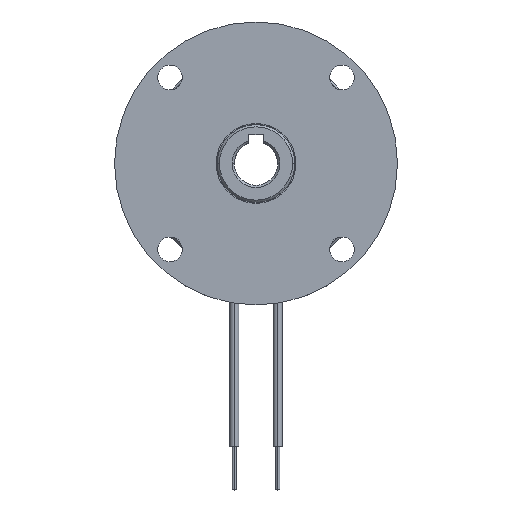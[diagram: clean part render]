
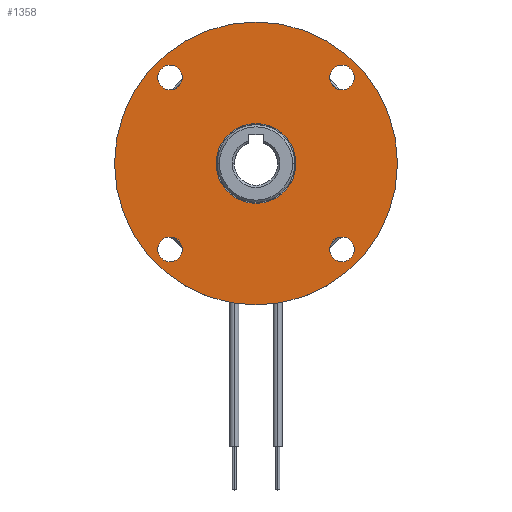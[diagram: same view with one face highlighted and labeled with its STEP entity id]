
A CAD part, top view. The second image highlights one B-rep face of the part: STEP entity #1358.
In plain terms, the highlighted planar face has unit normal (0, 0, 1).
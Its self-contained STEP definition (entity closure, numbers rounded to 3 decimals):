
#113 = CARTESIAN_POINT ( 'NONE',  ( -10.144, 11.844, 0. ) ) ;
#120 = DIRECTION ( 'NONE',  ( -1., 0., 0. ) ) ;
#186 = AXIS2_PLACEMENT_3D ( 'NONE', #2248, #3665, #2122 ) ;
#248 = AXIS2_PLACEMENT_3D ( 'NONE', #3488, #1121, #3961 ) ;
#276 = DIRECTION ( 'NONE',  ( -1., 0., 0. ) ) ;
#291 = CARTESIAN_POINT ( 'NONE',  ( 11.844, 11.844, 0. ) ) ;
#322 = DIRECTION ( 'NONE',  ( -1., 0., 0. ) ) ;
#359 = DIRECTION ( 'NONE',  ( -1., 0., 0. ) ) ;
#392 = AXIS2_PLACEMENT_3D ( 'NONE', #291, #2174, #322 ) ;
#402 = ORIENTED_EDGE ( 'NONE', *, *, #1594, .T. ) ;
#446 = EDGE_CURVE ( 'NONE', #4682, #1367, #2304, .T. ) ;
#586 = DIRECTION ( 'NONE',  ( 0., 0., -1. ) ) ;
#693 = VERTEX_POINT ( 'NONE', #4755 ) ;
#711 = CIRCLE ( 'NONE', #1493, 1.7 ) ;
#752 = AXIS2_PLACEMENT_3D ( 'NONE', #5585, #1747, #844 ) ;
#761 = ORIENTED_EDGE ( 'NONE', *, *, #768, .F. ) ;
#768 = EDGE_CURVE ( 'NONE', #5630, #693, #1045, .T. ) ;
#803 = PLANE ( 'NONE',  #5833 ) ;
#813 = DIRECTION ( 'NONE',  ( -1., 0., 0. ) ) ;
#844 = DIRECTION ( 'NONE',  ( -1., 0., 0. ) ) ;
#845 = ORIENTED_EDGE ( 'NONE', *, *, #5091, .T. ) ;
#846 = CIRCLE ( 'NONE', #2147, 1.7 ) ;
#872 = ORIENTED_EDGE ( 'NONE', *, *, #3932, .T. ) ;
#892 = DIRECTION ( 'NONE',  ( -1., 0., 0. ) ) ;
#908 = CIRCLE ( 'NONE', #4365, 1.7 ) ;
#1011 = CARTESIAN_POINT ( 'NONE',  ( 0., 19.5, 0. ) ) ;
#1025 = CARTESIAN_POINT ( 'NONE',  ( 10.144, 11.844, 0. ) ) ;
#1045 = CIRCLE ( 'NONE', #1442, 19.5 ) ;
#1121 = DIRECTION ( 'NONE',  ( 0., 0., -1. ) ) ;
#1211 = DIRECTION ( 'NONE',  ( 0., 0., -1. ) ) ;
#1358 = ADVANCED_FACE ( 'NONE', ( #3689, #4672, #2237, #2803, #2450, #3265 ), #803, .F. ) ;
#1367 = VERTEX_POINT ( 'NONE', #1800 ) ;
#1442 = AXIS2_PLACEMENT_3D ( 'NONE', #3165, #4439, #276 ) ;
#1462 = ORIENTED_EDGE ( 'NONE', *, *, #2369, .T. ) ;
#1465 = CARTESIAN_POINT ( 'NONE',  ( -5.5, 0., 0. ) ) ;
#1493 = AXIS2_PLACEMENT_3D ( 'NONE', #2494, #2029, #3906 ) ;
#1530 = CIRCLE ( 'NONE', #3620, 1.7 ) ;
#1548 = CIRCLE ( 'NONE', #2557, 5.5 ) ;
#1594 = EDGE_CURVE ( 'NONE', #1713, #2954, #908, .T. ) ;
#1713 = VERTEX_POINT ( 'NONE', #4214 ) ;
#1747 = DIRECTION ( 'NONE',  ( 0., 0., -1. ) ) ;
#1777 = CARTESIAN_POINT ( 'NONE',  ( 11.844, 11.844, 0. ) ) ;
#1793 = VERTEX_POINT ( 'NONE', #2894 ) ;
#1800 = CARTESIAN_POINT ( 'NONE',  ( 5.5, 0., 0. ) ) ;
#1848 = CIRCLE ( 'NONE', #752, 1.7 ) ;
#2029 = DIRECTION ( 'NONE',  ( 0., 0., -1. ) ) ;
#2122 = DIRECTION ( 'NONE',  ( -1., 0., 0. ) ) ;
#2147 = AXIS2_PLACEMENT_3D ( 'NONE', #1777, #1211, #359 ) ;
#2169 = DIRECTION ( 'NONE',  ( -1., 0., 0. ) ) ;
#2174 = DIRECTION ( 'NONE',  ( 0., 0., -1. ) ) ;
#2237 = FACE_BOUND ( 'NONE', #3655, .T. ) ;
#2248 = CARTESIAN_POINT ( 'NONE',  ( 11.844, -11.844, 0. ) ) ;
#2304 = CIRCLE ( 'NONE', #3780, 5.5 ) ;
#2369 = EDGE_CURVE ( 'NONE', #1793, #2490, #1530, .T. ) ;
#2415 = EDGE_LOOP ( 'NONE', ( #3533, #402 ) ) ;
#2431 = VERTEX_POINT ( 'NONE', #4984 ) ;
#2450 = FACE_OUTER_BOUND ( 'NONE', #5734, .T. ) ;
#2472 = VERTEX_POINT ( 'NONE', #5370 ) ;
#2477 = EDGE_CURVE ( 'NONE', #693, #5630, #5491, .T. ) ;
#2490 = VERTEX_POINT ( 'NONE', #4605 ) ;
#2492 = EDGE_LOOP ( 'NONE', ( #845, #872 ) ) ;
#2494 = CARTESIAN_POINT ( 'NONE',  ( -11.844, 11.844, 0. ) ) ;
#2557 = AXIS2_PLACEMENT_3D ( 'NONE', #5296, #586, #4338 ) ;
#2565 = CIRCLE ( 'NONE', #186, 1.7 ) ;
#2629 = CARTESIAN_POINT ( 'NONE',  ( -11.844, 11.844, 0. ) ) ;
#2712 = DIRECTION ( 'NONE',  ( 0., 0., -1. ) ) ;
#2803 = FACE_BOUND ( 'NONE', #5763, .T. ) ;
#2894 = CARTESIAN_POINT ( 'NONE',  ( -13.544, -11.844, 0. ) ) ;
#2943 = CARTESIAN_POINT ( 'NONE',  ( 10.144, -11.844, 0. ) ) ;
#2945 = DIRECTION ( 'NONE',  ( 0., 0., -1. ) ) ;
#2954 = VERTEX_POINT ( 'NONE', #2943 ) ;
#3165 = CARTESIAN_POINT ( 'NONE',  ( 0., 0., 0. ) ) ;
#3265 = FACE_BOUND ( 'NONE', #4276, .T. ) ;
#3374 = EDGE_CURVE ( 'NONE', #2431, #6117, #711, .T. ) ;
#3451 = CIRCLE ( 'NONE', #392, 1.7 ) ;
#3452 = CARTESIAN_POINT ( 'NONE',  ( -11.844, -11.844, 0. ) ) ;
#3472 = EDGE_CURVE ( 'NONE', #1367, #4682, #1548, .T. ) ;
#3488 = CARTESIAN_POINT ( 'NONE',  ( 0., 0., 0. ) ) ;
#3533 = ORIENTED_EDGE ( 'NONE', *, *, #4165, .T. ) ;
#3620 = AXIS2_PLACEMENT_3D ( 'NONE', #3452, #3856, #120 ) ;
#3655 = EDGE_LOOP ( 'NONE', ( #1462, #5658 ) ) ;
#3665 = DIRECTION ( 'NONE',  ( 0., 0., -1. ) ) ;
#3689 = FACE_BOUND ( 'NONE', #2492, .T. ) ;
#3780 = AXIS2_PLACEMENT_3D ( 'NONE', #4074, #5450, #2169 ) ;
#3856 = DIRECTION ( 'NONE',  ( 0., 0., -1. ) ) ;
#3906 = DIRECTION ( 'NONE',  ( -1., 0., 0. ) ) ;
#3912 = DIRECTION ( 'NONE',  ( -1., 0., 0. ) ) ;
#3932 = EDGE_CURVE ( 'NONE', #2472, #5324, #3451, .T. ) ;
#3961 = DIRECTION ( 'NONE',  ( -1., 0., 0. ) ) ;
#3967 = EDGE_CURVE ( 'NONE', #6117, #2431, #5325, .T. ) ;
#3982 = ORIENTED_EDGE ( 'NONE', *, *, #3472, .T. ) ;
#4074 = CARTESIAN_POINT ( 'NONE',  ( 0., 0., 0. ) ) ;
#4149 = ORIENTED_EDGE ( 'NONE', *, *, #2477, .F. ) ;
#4165 = EDGE_CURVE ( 'NONE', #2954, #1713, #2565, .T. ) ;
#4214 = CARTESIAN_POINT ( 'NONE',  ( 13.544, -11.844, 0. ) ) ;
#4276 = EDGE_LOOP ( 'NONE', ( #5694, #3982 ) ) ;
#4338 = DIRECTION ( 'NONE',  ( -1., 0., 0. ) ) ;
#4365 = AXIS2_PLACEMENT_3D ( 'NONE', #5418, #2945, #3912 ) ;
#4439 = DIRECTION ( 'NONE',  ( 0., 0., -1. ) ) ;
#4557 = DIRECTION ( 'NONE',  ( 0., 0., -1. ) ) ;
#4605 = CARTESIAN_POINT ( 'NONE',  ( -10.144, -11.844, 0. ) ) ;
#4672 = FACE_BOUND ( 'NONE', #2415, .T. ) ;
#4682 = VERTEX_POINT ( 'NONE', #1465 ) ;
#4755 = CARTESIAN_POINT ( 'NONE',  ( -19.5, 0., 0. ) ) ;
#4984 = CARTESIAN_POINT ( 'NONE',  ( -13.544, 11.844, 0. ) ) ;
#5024 = EDGE_CURVE ( 'NONE', #2490, #1793, #1848, .T. ) ;
#5082 = ORIENTED_EDGE ( 'NONE', *, *, #3374, .T. ) ;
#5091 = EDGE_CURVE ( 'NONE', #5324, #2472, #846, .T. ) ;
#5296 = CARTESIAN_POINT ( 'NONE',  ( 0., 0., 0. ) ) ;
#5324 = VERTEX_POINT ( 'NONE', #1025 ) ;
#5325 = CIRCLE ( 'NONE', #5434, 1.7 ) ;
#5370 = CARTESIAN_POINT ( 'NONE',  ( 13.544, 11.844, 0. ) ) ;
#5405 = ORIENTED_EDGE ( 'NONE', *, *, #3967, .T. ) ;
#5418 = CARTESIAN_POINT ( 'NONE',  ( 11.844, -11.844, 0. ) ) ;
#5434 = AXIS2_PLACEMENT_3D ( 'NONE', #2629, #4557, #813 ) ;
#5450 = DIRECTION ( 'NONE',  ( 0., 0., -1. ) ) ;
#5491 = CIRCLE ( 'NONE', #248, 19.5 ) ;
#5585 = CARTESIAN_POINT ( 'NONE',  ( -11.844, -11.844, 0. ) ) ;
#5630 = VERTEX_POINT ( 'NONE', #5834 ) ;
#5658 = ORIENTED_EDGE ( 'NONE', *, *, #5024, .T. ) ;
#5694 = ORIENTED_EDGE ( 'NONE', *, *, #446, .T. ) ;
#5734 = EDGE_LOOP ( 'NONE', ( #4149, #761 ) ) ;
#5763 = EDGE_LOOP ( 'NONE', ( #5082, #5405 ) ) ;
#5833 = AXIS2_PLACEMENT_3D ( 'NONE', #1011, #2712, #892 ) ;
#5834 = CARTESIAN_POINT ( 'NONE',  ( 19.5, 0., 0. ) ) ;
#6117 = VERTEX_POINT ( 'NONE', #113 ) ;
